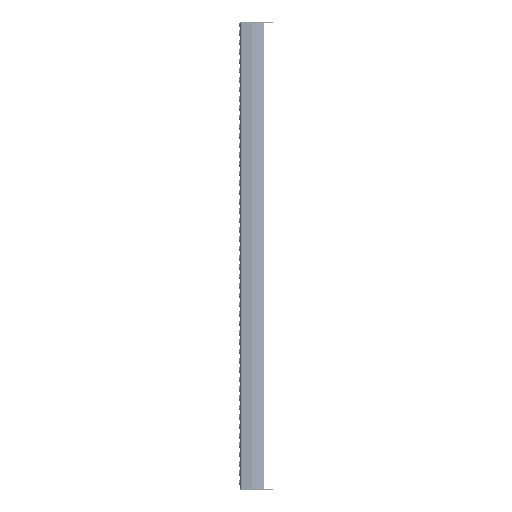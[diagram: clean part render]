
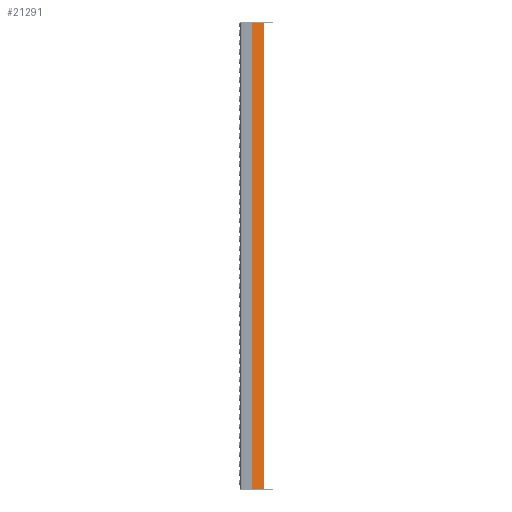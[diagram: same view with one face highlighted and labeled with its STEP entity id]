
A CAD part, left-side view. The second image highlights one B-rep face of the part: STEP entity #21291.
In plain terms, the highlighted planar face has unit normal (-0.94, -0.342, 0).
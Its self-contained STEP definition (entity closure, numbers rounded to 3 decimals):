
#2246=FACE_OUTER_BOUND('',#3727,.T.);
#3727=EDGE_LOOP('',(#16656,#16657,#16658,#16659));
#5076=LINE('',#35933,#7462);
#5095=LINE('',#35980,#7481);
#5097=LINE('',#35986,#7483);
#5101=LINE('',#35993,#7487);
#7462=VECTOR('',#26638,10.);
#7481=VECTOR('',#26681,10.);
#7483=VECTOR('',#26687,10.);
#7487=VECTOR('',#26695,10.);
#9982=VERTEX_POINT('',#35930);
#9983=VERTEX_POINT('',#35932);
#9999=VERTEX_POINT('',#35979);
#10001=VERTEX_POINT('',#35985);
#12367=EDGE_CURVE('',#9983,#9982,#5076,.T.);
#12391=EDGE_CURVE('',#9982,#9999,#5095,.T.);
#12394=EDGE_CURVE('',#10001,#9983,#5097,.T.);
#12398=EDGE_CURVE('',#9999,#10001,#5101,.T.);
#16656=ORIENTED_EDGE('',*,*,#12391,.T.);
#16657=ORIENTED_EDGE('',*,*,#12398,.T.);
#16658=ORIENTED_EDGE('',*,*,#12394,.T.);
#16659=ORIENTED_EDGE('',*,*,#12367,.T.);
#20028=PLANE('',#23070);
#21291=ADVANCED_FACE('',(#2246),#20028,.T.);
#23070=AXIS2_PLACEMENT_3D('',#35992,#26693,#26694);
#26638=DIRECTION('',(-0.342,0.94,0.));
#26681=DIRECTION('',(0.,0.,-1.));
#26687=DIRECTION('',(0.,0.,1.));
#26693=DIRECTION('center_axis',(-0.94,-0.342,0.));
#26694=DIRECTION('ref_axis',(0.,0.,1.));
#26695=DIRECTION('',(0.342,-0.94,0.));
#35930=CARTESIAN_POINT('',(0.196,-25.539,994.));
#35932=CARTESIAN_POINT('',(9.099,-50.,994.));
#35933=CARTESIAN_POINT('',(0.,-25.,994.));
#35979=CARTESIAN_POINT('',(0.196,-25.539,0.));
#35980=CARTESIAN_POINT('',(0.196,-25.539,0.));
#35985=CARTESIAN_POINT('',(9.099,-50.,0.));
#35986=CARTESIAN_POINT('',(9.099,-50.,0.));
#35992=CARTESIAN_POINT('Origin',(9.099,-50.,0.));
#35993=CARTESIAN_POINT('',(0.,-25.,0.));
